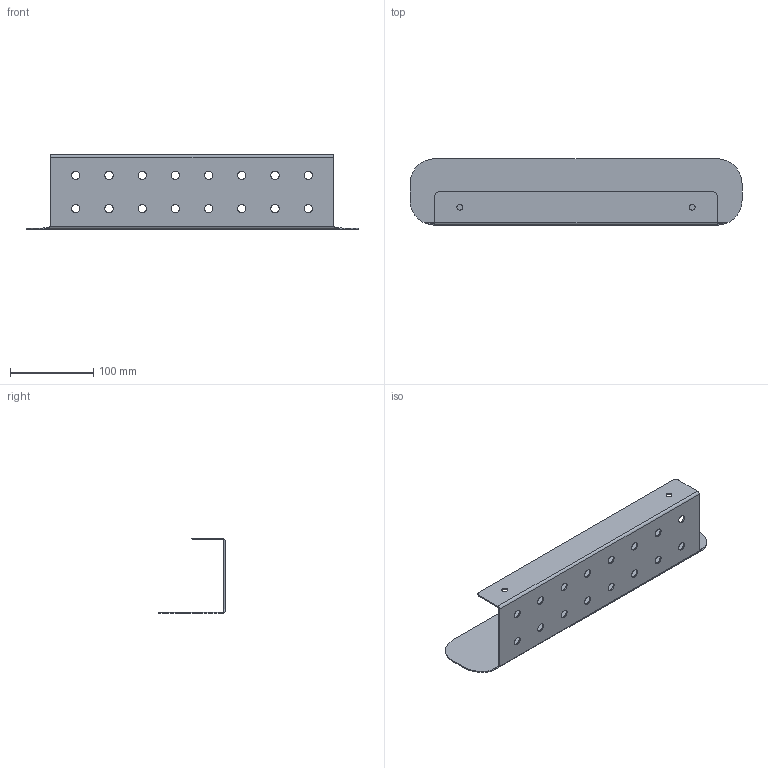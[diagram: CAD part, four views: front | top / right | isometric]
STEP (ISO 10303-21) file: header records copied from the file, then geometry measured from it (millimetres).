
FILE_DESCRIPTION (( 'STEP AP203' ), '1' );
FILE_NAME ('Pó³ka ³azienkowa RAGIO 40cm.STEP', '2022-02-23T11:13:32', ( '' ), ( '' ), 'SwSTEP 2.0', 'SolidWorks 2021', '' );
FILE_SCHEMA (( 'CONFIG_CONTROL_DESIGN' ));
Length unit declared in the file: millimetre
Products named in the file (1): Pó³ka ³azienkowa RAGIO 40cm
Bounding box: 400 x 80 x 90 mm (x, y, z)
Volume: 108602.8 mm3; surface area: 147351.8 mm2
Topology: 1 solids, 1 shells, 66 faces, 180 edges, 116 vertices
Faces by surface type: cylinder 46, plane 16, bspline 4
Entity records: 2415 total; most frequent: CARTESIAN_POINT 559, DIRECTION 378, ORIENTED_EDGE 360, EDGE_CURVE 180, AXIS2_PLACEMENT_3D 151, VERTEX_POINT 116, EDGE_LOOP 102, CIRCLE 88
